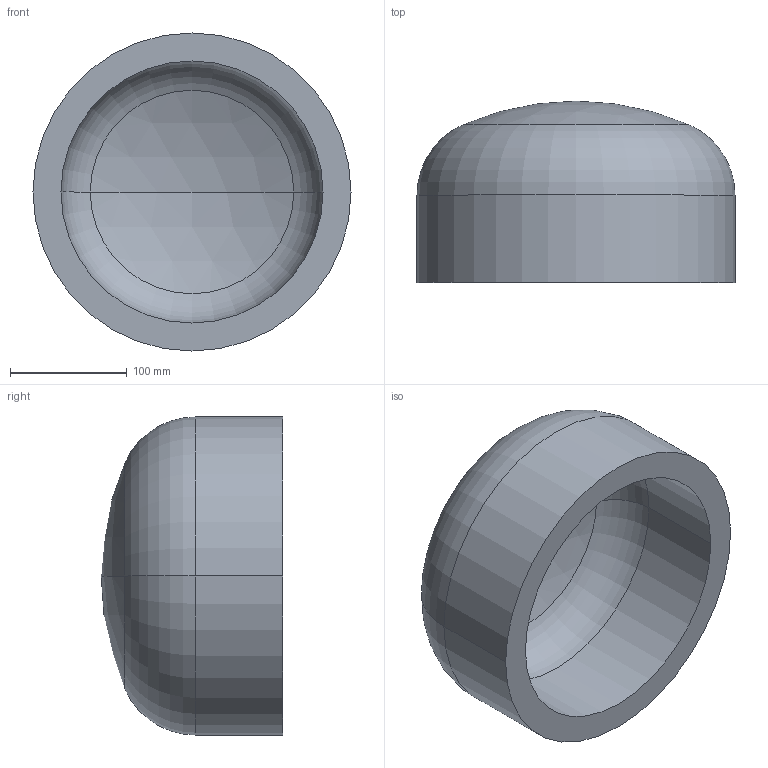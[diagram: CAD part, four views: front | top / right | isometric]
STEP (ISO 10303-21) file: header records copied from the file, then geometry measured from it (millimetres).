
FILE_DESCRIPTION (( 'STEP AP203' ), '1' );
FILE_NAME ('DIN 28013 Korbbogenform_-_Boden DIN 28013 - 273 x 75 - I - s=24.step', '2016-07-01T07:43:30', ( '' ), ( '' ), 'SwSTEP 2.0', 'SolidWorks 2013', '' );
FILE_SCHEMA (( 'CONFIG_CONTROL_DESIGN' ));
Length unit declared in the file: millimetre
Products named in the file (1): DIN 28013 Korbbogenform_-_Boden DIN 28013 - 273 x 75 - I - s=24
Bounding box: 273 x 155.74 x 273 mm (x, y, z)
Volume: 3151317.9 mm3; surface area: 282590.3 mm2
Topology: 1 solids, 1 shells, 13 faces, 24 edges, 14 vertices
Faces by surface type: torus 4, cylinder 4, sphere 4, plane 1
Entity records: 407 total; most frequent: DIRECTION 72, CARTESIAN_POINT 52, ORIENTED_EDGE 48, AXIS2_PLACEMENT_3D 34, EDGE_CURVE 24, CIRCLE 20, EDGE_LOOP 14, VERTEX_POINT 14
